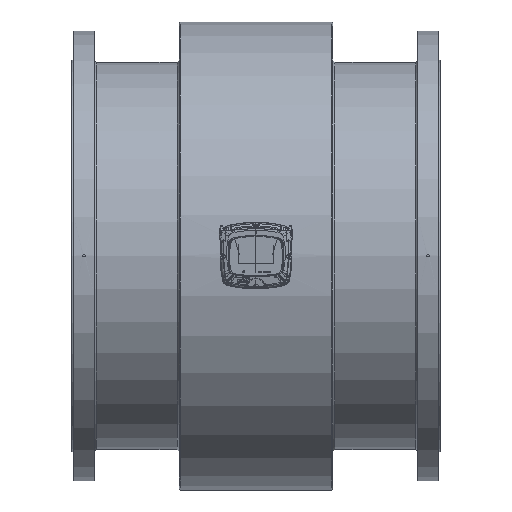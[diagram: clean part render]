
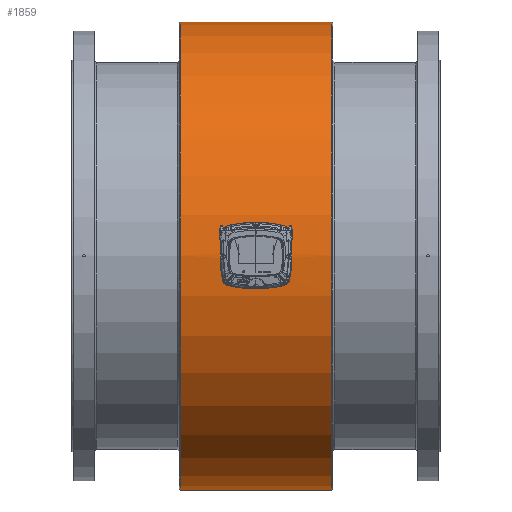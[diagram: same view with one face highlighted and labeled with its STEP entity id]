
A CAD part, top view. The second image highlights one B-rep face of the part: STEP entity #1859.
In plain terms, the highlighted cylindrical face has radius 507.5 mm (diameter 1015 mm), a full revolution.
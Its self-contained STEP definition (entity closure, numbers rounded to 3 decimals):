
#1795=CARTESIAN_POINT('',(0.,-11.499,507.37));
#1796=VERTEX_POINT('',#1795);
#1806=CARTESIAN_POINT('',(0.,-11.5,507.37));
#1807=CARTESIAN_POINT('',(1.729,-11.5,507.37));
#1808=CARTESIAN_POINT('',(5.186,-10.715,507.388));
#1809=CARTESIAN_POINT('',(9.345,-7.417,507.452));
#1810=CARTESIAN_POINT('',(11.652,-2.646,507.502));
#1811=CARTESIAN_POINT('',(11.652,2.645,507.502));
#1812=CARTESIAN_POINT('',(9.344,7.416,507.451));
#1813=CARTESIAN_POINT('',(5.647,10.346,507.396));
#1814=CARTESIAN_POINT('',(0.635,11.888,507.361));
#1815=CARTESIAN_POINT('',(-5.327,11.007,507.383));
#1816=CARTESIAN_POINT('',(-9.737,6.918,507.46));
#1817=CARTESIAN_POINT('',(-11.65,2.057,507.502));
#1818=CARTESIAN_POINT('',(-11.653,-2.645,507.502));
#1819=CARTESIAN_POINT('',(-9.343,-7.416,507.451));
#1820=CARTESIAN_POINT('',(-5.186,-10.714,507.388));
#1821=CARTESIAN_POINT('',(-1.728,-11.5,507.37));
#1822=CARTESIAN_POINT('',(0.,-11.5,507.37));
#1823=B_SPLINE_CURVE_WITH_KNOTS('',3,(#1806,#1807,#1808,#1809,#1810,#1811,#1812,#1813,#1814,#1815,#1816,#1817,#1818,#1819,#1820,#1821,#1822),.UNSPECIFIED.,.T.,.U.,(4,1,1,1,1,1,1,1,1,1,1,1,1,1,4),(-7.229,-6.712,-6.196,-5.68,-5.163,-4.647,-4.131,-3.787,-3.098,-2.41,-2.065,-1.549,-1.033,-0.516,0.0),.UNSPECIFIED.);
#1824=EDGE_CURVE('',#1796,#1796,#1823,.T.);
#1829=CARTESIAN_POINT('',(82.,0.0,0.0));
#1830=DIRECTION('',(1.0,0.0,0.0));
#1831=DIRECTION('',(0.0,1.0,0.0));
#1832=AXIS2_PLACEMENT_3D('',#1829,#1830,#1831);
#1833=CYLINDRICAL_SURFACE('',#1832,507.5);
#1834=CARTESIAN_POINT('',(-164.,507.5,0.0));
#1835=VERTEX_POINT('',#1834);
#1836=CARTESIAN_POINT('',(-164.,0.0,0.0));
#1837=DIRECTION('',(1.0,0.0,0.0));
#1838=DIRECTION('',(0.0,1.0,0.0));
#1839=AXIS2_PLACEMENT_3D('',#1836,#1837,#1838);
#1840=CIRCLE('',#1839,507.5);
#1841=EDGE_CURVE('',#1835,#1835,#1840,.T.);
#1842=ORIENTED_EDGE('',*,*,#1841,.T.);
#1843=EDGE_LOOP('',(#1842));
#1844=FACE_OUTER_BOUND('',#1843,.T.);
#1845=CARTESIAN_POINT('',(164.,507.5,0.0));
#1846=VERTEX_POINT('',#1845);
#1847=CARTESIAN_POINT('',(164.0,0.0,0.0));
#1848=DIRECTION('',(1.0,0.0,0.0));
#1849=DIRECTION('',(0.0,1.0,0.0));
#1850=AXIS2_PLACEMENT_3D('',#1847,#1848,#1849);
#1851=CIRCLE('',#1850,507.5);
#1852=EDGE_CURVE('',#1846,#1846,#1851,.T.);
#1853=ORIENTED_EDGE('',*,*,#1852,.F.);
#1854=EDGE_LOOP('',(#1853));
#1855=FACE_BOUND('',#1854,.T.);
#1856=ORIENTED_EDGE('',*,*,#1824,.F.);
#1857=EDGE_LOOP('',(#1856));
#1858=FACE_BOUND('',#1857,.T.);
#1859=ADVANCED_FACE('',(#1844,#1855,#1858),#1833,.T.);
